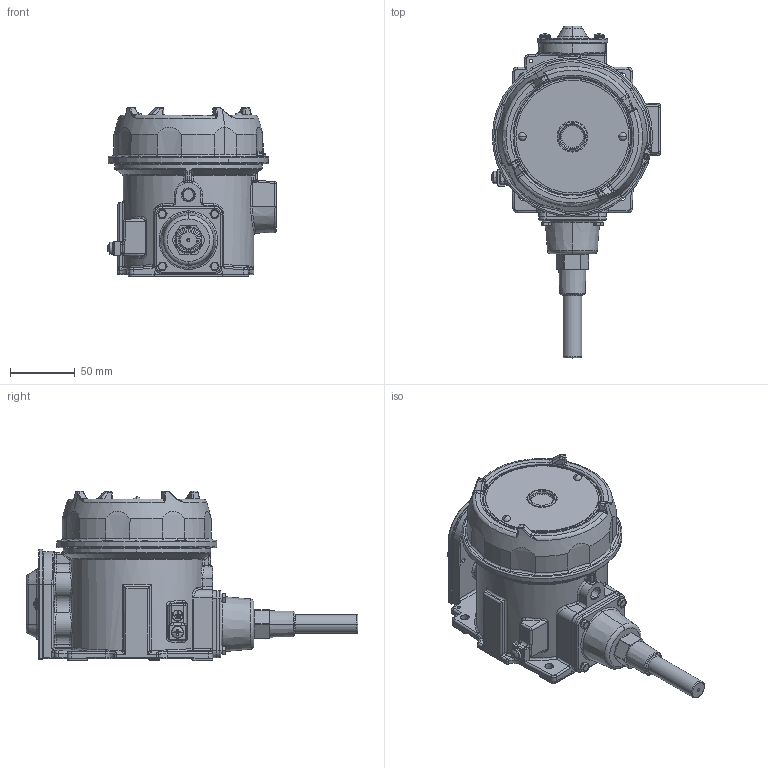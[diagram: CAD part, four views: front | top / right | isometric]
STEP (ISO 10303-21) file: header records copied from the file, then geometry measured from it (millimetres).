
FILE_DESCRIPTION (( 'STEP AP214' ), '1' );
FILE_NAME ('B121_B122-120_121_V2.STEP', '2025-04-08T12:39:45', ( '' ), ( '' ), 'SwSTEP 2.0', 'SolidWorks 2023', '' );
FILE_SCHEMA (( 'AUTOMOTIVE_DESIGN' ));
Length unit declared in the file: inch
Products named in the file (1): B121_B122-120_121_V2
Bounding box: 130.59 x 256.62 x 131.39 mm (x, y, z)
Volume: 628576.9 mm3; surface area: 214986.6 mm2
Topology: 20 solids, 21 shells, 2075 faces, 5081 edges, 3030 vertices
Faces by surface type: cylinder 633, plane 471, bspline 334, cone 327, torus 246, sphere 64
Entity records: 79602 total; most frequent: CARTESIAN_POINT 34067, ORIENTED_EDGE 9992, DIRECTION 9113, EDGE_CURVE 4996, AXIS2_PLACEMENT_3D 3741, VERTEX_POINT 3030, EDGE_LOOP 2202, FACE_OUTER_BOUND 2075
